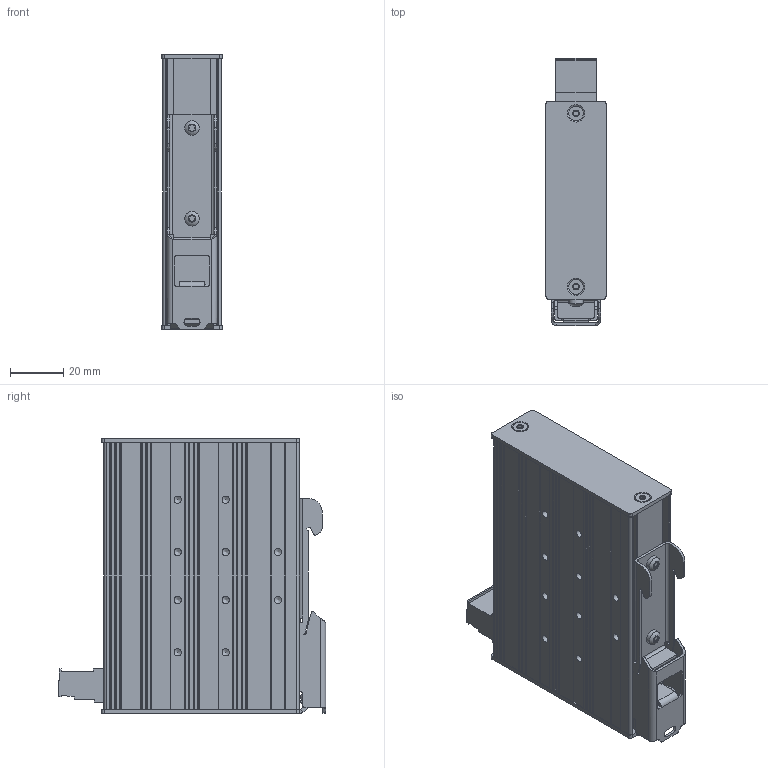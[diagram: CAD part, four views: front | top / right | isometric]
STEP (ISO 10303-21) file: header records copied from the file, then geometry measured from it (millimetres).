
FILE_DESCRIPTION(('TFLEX Exchange Step'),'2;1');
FILE_NAME('TZCA22140XA_NITE-RS5-2100.stp', '2020-04-07T15:29:34+02:00',('User'),('Unknown organisation'),'TFLEX Exchange 2019.0','T-FLEX CAD','Unknown authorisation');
FILE_SCHEMA( ('AUTOMOTIVE_DESIGN { 1 0 10303 214 1 1 1 1 }') );
Length unit declared in the file: millimetre
Products named in the file (1): TZCA22140XA_NITE-RS5-2100
Bounding box: 22.5 x 100.2 x 103 mm (x, y, z)
Volume: 157710.4 mm3; surface area: 39880.6 mm2
Topology: 2 solids, 10 shells, 2124 faces, 5874 edges, 3835 vertices
Faces by surface type: plane 1213, cylinder 476, bspline 251, cone 155, torus 22, extrusion 5, sphere 2
Full cylindrical faces by diameter (mm): 0.5 x40, 1.2 x12, 1.3 x3, 2.75 x10, 3 x11, 3.2 x8, 3.75 x3, 3.95 x3, 5.5 x10, 6 x4
Entity records: 73751 total; most frequent: CARTESIAN_POINT 19527, ORIENTED_EDGE 11648, DIRECTION 10224, EDGE_CURVE 5824, VECTOR 3852, LINE 3847, VERTEX_POINT 3835, AXIS2_PLACEMENT_3D 3186
